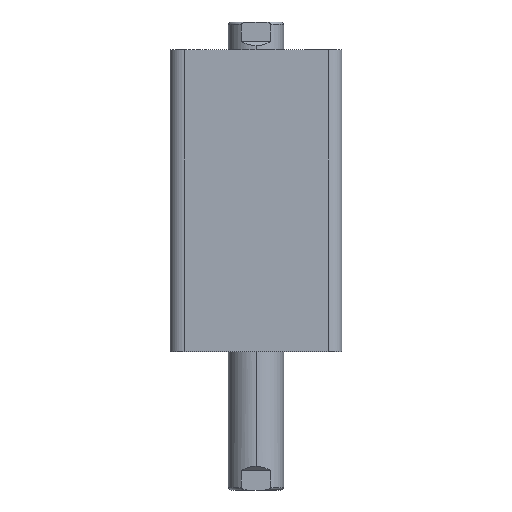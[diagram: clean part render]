
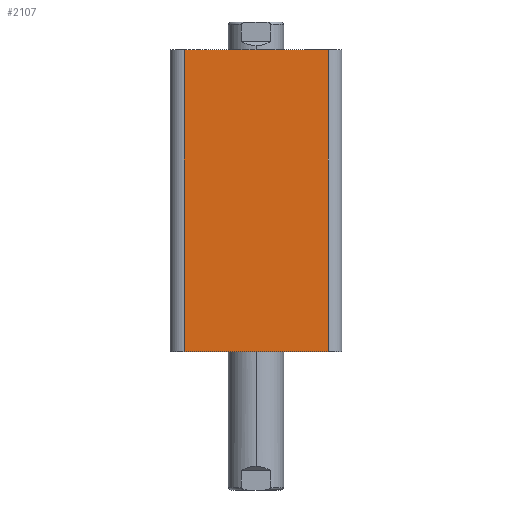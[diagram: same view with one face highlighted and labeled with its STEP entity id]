
A CAD part, left-side view. The second image highlights one B-rep face of the part: STEP entity #2107.
In plain terms, the highlighted planar face has unit normal (-1, 0, 0).
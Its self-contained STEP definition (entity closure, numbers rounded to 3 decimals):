
#242 = EDGE_CURVE ( 'NONE', #2293, #2359, #1587, .T. ) ;
#249 = EDGE_CURVE ( 'NONE', #2293, #2292, #1598, .T. ) ;
#277 = EDGE_CURVE ( 'NONE', #2353, #2292, #1642, .T. ) ;
#293 = EDGE_CURVE ( 'NONE', #2359, #2353, #1667, .T. ) ;
#446 = CARTESIAN_POINT ( 'NONE',  ( -31., -26., 109. ) ) ;
#447 = CARTESIAN_POINT ( 'NONE',  ( -31., 26., 109. ) ) ;
#513 = CARTESIAN_POINT ( 'NONE',  ( -31., -26., 0. ) ) ;
#519 = CARTESIAN_POINT ( 'NONE',  ( -31., 26., 0. ) ) ;
#677 = DIRECTION ( 'NONE',  ( 0., 0., 1. ) ) ;
#678 = CARTESIAN_POINT ( 'NONE',  ( -31., -26., 109. ) ) ;
#722 = CARTESIAN_POINT ( 'NONE',  ( -31., 31., 0. ) ) ;
#723 = DIRECTION ( 'NONE',  ( 0., -1., 0. ) ) ;
#910 = EDGE_LOOP ( 'NONE', ( #2154, #2153, #2152, #2151 ) ) ;
#1328 = AXIS2_PLACEMENT_3D ( 'NONE', #2904, #2914, #2915 ) ;
#1587 = LINE ( 'NONE', #3154, #1591 ) ;
#1591 = VECTOR ( 'NONE', #3152, 1000. ) ;
#1598 = LINE ( 'NONE', #3172, #1601 ) ;
#1601 = VECTOR ( 'NONE', #3159, 1000. ) ;
#1642 = LINE ( 'NONE', #678, #1644 ) ;
#1644 = VECTOR ( 'NONE', #677, 1000. ) ;
#1667 = LINE ( 'NONE', #722, #1670 ) ;
#1670 = VECTOR ( 'NONE', #723, 1000. ) ;
#2107 = ADVANCED_FACE ( 'NONE', ( #2617 ), #2912, .F. ) ;
#2151 = ORIENTED_EDGE ( 'NONE', *, *, #242, .T. ) ;
#2152 = ORIENTED_EDGE ( 'NONE', *, *, #249, .F. ) ;
#2153 = ORIENTED_EDGE ( 'NONE', *, *, #277, .T. ) ;
#2154 = ORIENTED_EDGE ( 'NONE', *, *, #293, .T. ) ;
#2292 = VERTEX_POINT ( 'NONE', #446 ) ;
#2293 = VERTEX_POINT ( 'NONE', #447 ) ;
#2353 = VERTEX_POINT ( 'NONE', #513 ) ;
#2359 = VERTEX_POINT ( 'NONE', #519 ) ;
#2617 = FACE_OUTER_BOUND ( 'NONE', #910, .T. ) ;
#2904 = CARTESIAN_POINT ( 'NONE',  ( -31., 31., 109. ) ) ;
#2912 = PLANE ( 'NONE',  #1328 ) ;
#2914 = DIRECTION ( 'NONE',  ( 1., 0., 0. ) ) ;
#2915 = DIRECTION ( 'NONE',  ( 0., 1., 0. ) ) ;
#3152 = DIRECTION ( 'NONE',  ( 0., 0., -1. ) ) ;
#3154 = CARTESIAN_POINT ( 'NONE',  ( -31., 26., 109. ) ) ;
#3159 = DIRECTION ( 'NONE',  ( 0., -1., 0. ) ) ;
#3172 = CARTESIAN_POINT ( 'NONE',  ( -31., 31., 109. ) ) ;
